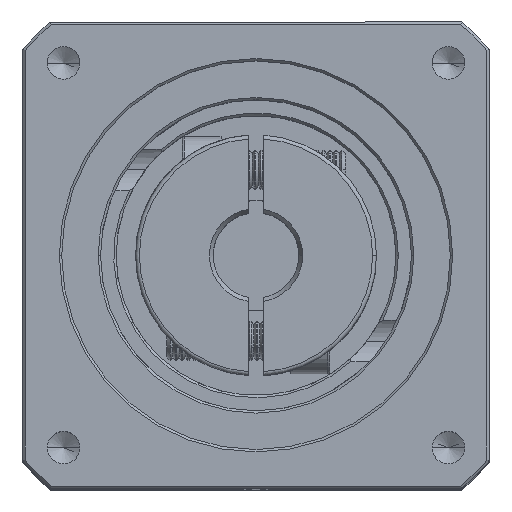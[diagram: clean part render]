
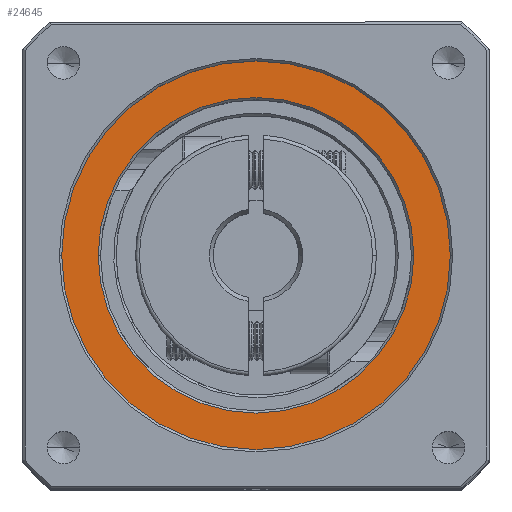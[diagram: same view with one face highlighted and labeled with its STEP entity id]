
A CAD part, top view. The second image highlights one B-rep face of the part: STEP entity #24645.
In plain terms, the highlighted planar face has unit normal (0, 0, 1).
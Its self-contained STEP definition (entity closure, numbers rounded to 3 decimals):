
#482 = EDGE_CURVE ( 'NONE', #85021, #84536, #33295, .T. ) ;
#971 = EDGE_CURVE ( 'NONE', #84536, #85021, #86038, .T. ) ;
#12815 = EDGE_CURVE ( 'NONE', #38592, #41274, #76875, .T. ) ;
#13625 = DIRECTION ( 'NONE',  ( 0., 0., -1. ) ) ;
#16103 = CARTESIAN_POINT ( 'NONE',  ( -70.977, 22.072, 40.365 ) ) ;
#17002 = FACE_BOUND ( 'NONE', #77790, .T. ) ;
#19077 = FACE_OUTER_BOUND ( 'NONE', #29488, .T. ) ;
#21764 = AXIS2_PLACEMENT_3D ( 'NONE', #31104, #77486, #37758 ) ;
#22761 = DIRECTION ( 'NONE',  ( 1., 0., 0. ) ) ;
#24645 = ADVANCED_FACE ( 'NONE', ( #17002, #19077 ), #75557, .T. ) ;
#27496 = CIRCLE ( 'NONE', #73648, 25. ) ;
#28281 = DIRECTION ( 'NONE',  ( 0., 0., 1. ) ) ;
#29124 = ORIENTED_EDGE ( 'NONE', *, *, #482, .T. ) ;
#29488 = EDGE_LOOP ( 'NONE', ( #47461, #33673 ) ) ;
#29547 = CARTESIAN_POINT ( 'NONE',  ( -45.977, 22.072, 40.365 ) ) ;
#29947 = CARTESIAN_POINT ( 'NONE',  ( -70.977, 22.072, 40.365 ) ) ;
#31104 = CARTESIAN_POINT ( 'NONE',  ( -70.977, 22.072, 40.365 ) ) ;
#32748 = EDGE_CURVE ( 'NONE', #41274, #38592, #27496, .T. ) ;
#33295 = CIRCLE ( 'NONE', #21764, 20.3 ) ;
#33673 = ORIENTED_EDGE ( 'NONE', *, *, #12815, .T. ) ;
#34472 = AXIS2_PLACEMENT_3D ( 'NONE', #29947, #76339, #36602 ) ;
#36602 = DIRECTION ( 'NONE',  ( 1., 0., 0. ) ) ;
#37758 = DIRECTION ( 'NONE',  ( 1., 0., 0. ) ) ;
#38592 = VERTEX_POINT ( 'NONE', #81638 ) ;
#41274 = VERTEX_POINT ( 'NONE', #29547 ) ;
#45208 = ORIENTED_EDGE ( 'NONE', *, *, #971, .T. ) ;
#46182 = CARTESIAN_POINT ( 'NONE',  ( -91.277, 22.072, 40.365 ) ) ;
#47461 = ORIENTED_EDGE ( 'NONE', *, *, #32748, .T. ) ;
#53396 = CARTESIAN_POINT ( 'NONE',  ( -70.977, 22.072, 40.365 ) ) ;
#57970 = CARTESIAN_POINT ( 'NONE',  ( -50.677, 22.072, 40.365 ) ) ;
#60011 = DIRECTION ( 'NONE',  ( 1., 0., 0. ) ) ;
#61259 = AXIS2_PLACEMENT_3D ( 'NONE', #53396, #13625, #60011 ) ;
#62449 = DIRECTION ( 'NONE',  ( 0., 0., 1. ) ) ;
#67980 = CARTESIAN_POINT ( 'NONE',  ( -70.977, 22.072, 40.365 ) ) ;
#68163 = AXIS2_PLACEMENT_3D ( 'NONE', #16103, #62449, #22761 ) ;
#73648 = AXIS2_PLACEMENT_3D ( 'NONE', #67980, #28281, #74668 ) ;
#74668 = DIRECTION ( 'NONE',  ( 1., 0., 0. ) ) ;
#75557 = PLANE ( 'NONE',  #68163 ) ;
#76339 = DIRECTION ( 'NONE',  ( 0., 0., 1. ) ) ;
#76875 = CIRCLE ( 'NONE', #34472, 25. ) ;
#77486 = DIRECTION ( 'NONE',  ( 0., 0., -1. ) ) ;
#77790 = EDGE_LOOP ( 'NONE', ( #29124, #45208 ) ) ;
#81638 = CARTESIAN_POINT ( 'NONE',  ( -95.977, 22.072, 40.365 ) ) ;
#84536 = VERTEX_POINT ( 'NONE', #46182 ) ;
#85021 = VERTEX_POINT ( 'NONE', #57970 ) ;
#86038 = CIRCLE ( 'NONE', #61259, 20.3 ) ;
